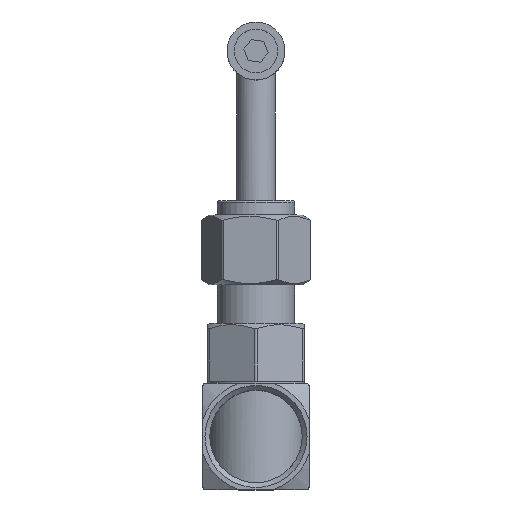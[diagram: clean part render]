
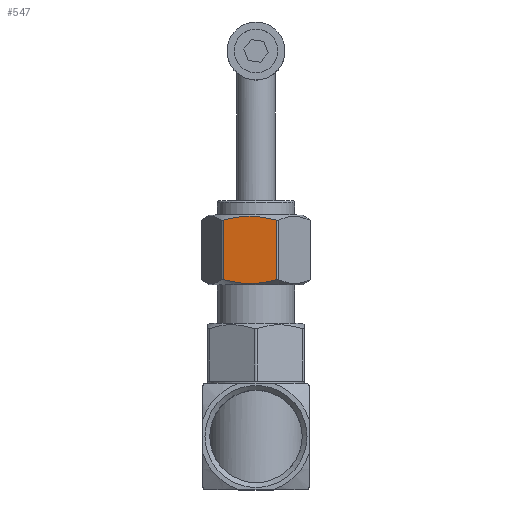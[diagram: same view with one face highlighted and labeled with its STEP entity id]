
A CAD part, top view. The second image highlights one B-rep face of the part: STEP entity #547.
In plain terms, the highlighted planar face has unit normal (-0.125, 0, 0.992).
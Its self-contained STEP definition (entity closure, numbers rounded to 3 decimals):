
#547=ADVANCED_FACE('',(#2001),#2003,.T.);
#2001=FACE_BOUND('',#2002,.T.);
#2002=EDGE_LOOP('',(#4054,#4055,#4056,#4057));
#2003=PLANE('',#2004);
#2004=AXIS2_PLACEMENT_3D('',#2005,#2006,#2007);
#2005=CARTESIAN_POINT('',(-6.977,31.5,9.2));
#2006=DIRECTION('',(-0.125,0.,0.992));
#2007=DIRECTION('',(0.992,0.,0.125));
#4054=ORIENTED_EDGE('',*,*,#4802,.F.);
#4055=ORIENTED_EDGE('',*,*,#4782,.T.);
#4056=ORIENTED_EDGE('',*,*,#4804,.F.);
#4057=ORIENTED_EDGE('',*,*,#4795,.T.);
#4782=EDGE_CURVE('',#5322,#5320,#5323,.T.);
#4795=EDGE_CURVE('',#5345,#5343,#5346,.T.);
#4802=EDGE_CURVE('',#5322,#5343,#5357,.T.);
#4804=EDGE_CURVE('',#5345,#5320,#5359,.T.);
#5320=VERTEX_POINT('',#8588);
#5322=VERTEX_POINT('',#8631);
#5323=B_SPLINE_CURVE_WITH_KNOTS('',3,
(#8632,#8633,#8634,#8635,#8636,#8637,#8638,#8639,#8640,#8641,#8642,#8643,#8644,#8645,
#8646,#8647,#8648,#8649,#8650,#8651,#8652,#8653,#8654,#8655,#8656,#8657,#8658,#8659,
#8660,#8661,#8662,#8663,#8664,#8665,#8666,#8667),
.UNSPECIFIED.,.F.,.F.,
(4,1,1,1,1,1,1,1,1,1,1,1,1,1,1,1,1,1,1,1,1,1,1,1,1,1,1,1,1,1,1,1,1,4),
(0.,0.023,0.046,0.069,0.093,
0.116,0.14,0.165,0.189,0.214,
0.24,0.267,0.294,0.322,0.351,
0.381,0.412,0.443,0.475,0.5,
0.508,0.543,0.577,0.613,0.65,
0.687,0.724,0.762,0.8,0.84,
0.879,0.919,0.959,1.),
.UNSPECIFIED.);
#5343=VERTEX_POINT('',#8969);
#5345=VERTEX_POINT('',#9013);
#5346=B_SPLINE_CURVE_WITH_KNOTS('',3,
(#9014,#9015,#9016,#9017,#9018,#9019,#9020,#9021,#9022,#9023,#9024,#9025,#9026,#9027,
#9028,#9029,#9030,#9031,#9032,#9033,#9034,#9035,#9036,#9037,#9038,#9039,#9040,#9041,
#9042,#9043,#9044,#9045,#9046,#9047,#9048,#9049),
.UNSPECIFIED.,.F.,.F.,
(4,1,1,1,1,1,1,1,1,1,1,1,1,1,1,1,1,1,1,1,1,1,1,1,1,1,1,1,1,1,1,1,1,4),
(0.,0.023,0.046,0.069,0.093,
0.116,0.14,0.165,0.189,0.214,
0.24,0.267,0.294,0.322,0.351,
0.381,0.412,0.443,0.475,0.5,
0.508,0.543,0.577,0.613,0.65,
0.687,0.724,0.762,0.8,0.84,
0.879,0.919,0.959,1.),
.UNSPECIFIED.);
#5357=LINE('',#9226,#9227);
#5359=LINE('',#9232,#9233);
#8588=CARTESIAN_POINT('',(-6.691,44.927,9.236));
#8631=CARTESIAN_POINT('',(4.193,44.927,10.606));
#8632=CARTESIAN_POINT('',(4.193,44.927,10.606));
#8633=CARTESIAN_POINT('',(4.099,44.953,10.594));
#8634=CARTESIAN_POINT('',(3.91,45.005,10.571));
#8635=CARTESIAN_POINT('',(3.632,45.078,10.536));
#8636=CARTESIAN_POINT('',(3.356,45.148,10.501));
#8637=CARTESIAN_POINT('',(3.082,45.213,10.466));
#8638=CARTESIAN_POINT('',(2.809,45.275,10.432));
#8639=CARTESIAN_POINT('',(2.536,45.333,10.398));
#8640=CARTESIAN_POINT('',(2.263,45.388,10.363));
#8641=CARTESIAN_POINT('',(1.99,45.439,10.329));
#8642=CARTESIAN_POINT('',(1.715,45.487,10.294));
#8643=CARTESIAN_POINT('',(1.437,45.531,10.259));
#8644=CARTESIAN_POINT('',(1.154,45.572,10.224));
#8645=CARTESIAN_POINT('',(0.866,45.61,10.188));
#8646=CARTESIAN_POINT('',(0.571,45.643,10.15));
#8647=CARTESIAN_POINT('',(0.27,45.672,10.113));
#8648=CARTESIAN_POINT('',(-0.039,45.697,10.074));
#8649=CARTESIAN_POINT('',(-0.354,45.716,10.034));
#8650=CARTESIAN_POINT('',(-0.674,45.73,9.994));
#8651=CARTESIAN_POINT('',(-0.973,45.737,9.956));
#8652=CARTESIAN_POINT('',(-1.194,45.739,9.928));
#8653=CARTESIAN_POINT('',(-1.422,45.738,9.9));
#8654=CARTESIAN_POINT('',(-1.684,45.734,9.867));
#8655=CARTESIAN_POINT('',(-2.04,45.721,9.822));
#8656=CARTESIAN_POINT('',(-2.405,45.701,9.776));
#8657=CARTESIAN_POINT('',(-2.781,45.671,9.729));
#8658=CARTESIAN_POINT('',(-3.166,45.633,9.68));
#8659=CARTESIAN_POINT('',(-3.562,45.585,9.63));
#8660=CARTESIAN_POINT('',(-3.966,45.527,9.579));
#8661=CARTESIAN_POINT('',(-4.384,45.459,9.527));
#8662=CARTESIAN_POINT('',(-4.814,45.379,9.473));
#8663=CARTESIAN_POINT('',(-5.259,45.286,9.417));
#8664=CARTESIAN_POINT('',(-5.719,45.181,9.359));
#8665=CARTESIAN_POINT('',(-6.196,45.062,9.299));
#8666=CARTESIAN_POINT('',(-6.524,44.974,9.258));
#8667=CARTESIAN_POINT('',(-6.691,44.927,9.236));
#8969=CARTESIAN_POINT('',(4.193,32.573,10.606));
#9013=CARTESIAN_POINT('',(-6.691,32.573,9.236));
#9014=CARTESIAN_POINT('',(-6.691,32.573,9.236));
#9015=CARTESIAN_POINT('',(-6.597,32.547,9.248));
#9016=CARTESIAN_POINT('',(-6.408,32.495,9.272));
#9017=CARTESIAN_POINT('',(-6.13,32.422,9.307));
#9018=CARTESIAN_POINT('',(-5.854,32.352,9.342));
#9019=CARTESIAN_POINT('',(-5.58,32.287,9.376));
#9020=CARTESIAN_POINT('',(-5.307,32.225,9.411));
#9021=CARTESIAN_POINT('',(-5.035,32.167,9.445));
#9022=CARTESIAN_POINT('',(-4.761,32.112,9.479));
#9023=CARTESIAN_POINT('',(-4.488,32.061,9.514));
#9024=CARTESIAN_POINT('',(-4.213,32.013,9.548));
#9025=CARTESIAN_POINT('',(-3.935,31.969,9.583));
#9026=CARTESIAN_POINT('',(-3.652,31.928,9.619));
#9027=CARTESIAN_POINT('',(-3.364,31.89,9.655));
#9028=CARTESIAN_POINT('',(-3.069,31.857,9.692));
#9029=CARTESIAN_POINT('',(-2.768,31.828,9.73));
#9030=CARTESIAN_POINT('',(-2.459,31.803,9.769));
#9031=CARTESIAN_POINT('',(-2.145,31.784,9.809));
#9032=CARTESIAN_POINT('',(-1.824,31.77,9.849));
#9033=CARTESIAN_POINT('',(-1.525,31.763,9.887));
#9034=CARTESIAN_POINT('',(-1.304,31.761,9.914));
#9035=CARTESIAN_POINT('',(-1.076,31.762,9.943));
#9036=CARTESIAN_POINT('',(-0.814,31.766,9.976));
#9037=CARTESIAN_POINT('',(-0.458,31.779,10.021));
#9038=CARTESIAN_POINT('',(-0.094,31.799,10.067));
#9039=CARTESIAN_POINT('',(0.283,31.829,10.114));
#9040=CARTESIAN_POINT('',(0.668,31.867,10.163));
#9041=CARTESIAN_POINT('',(1.063,31.915,10.212));
#9042=CARTESIAN_POINT('',(1.468,31.973,10.263));
#9043=CARTESIAN_POINT('',(1.886,32.041,10.316));
#9044=CARTESIAN_POINT('',(2.316,32.121,10.37));
#9045=CARTESIAN_POINT('',(2.76,32.214,10.426));
#9046=CARTESIAN_POINT('',(3.22,32.319,10.484));
#9047=CARTESIAN_POINT('',(3.697,32.438,10.544));
#9048=CARTESIAN_POINT('',(4.026,32.526,10.585));
#9049=CARTESIAN_POINT('',(4.193,32.573,10.606));
#9226=CARTESIAN_POINT('',(4.193,44.927,10.606));
#9227=VECTOR('',#9228,1.);
#9228=DIRECTION('',(0.,-1.,0.));
#9232=CARTESIAN_POINT('',(-6.691,32.573,9.236));
#9233=VECTOR('',#9234,1.);
#9234=DIRECTION('',(0.,1.,0.));
